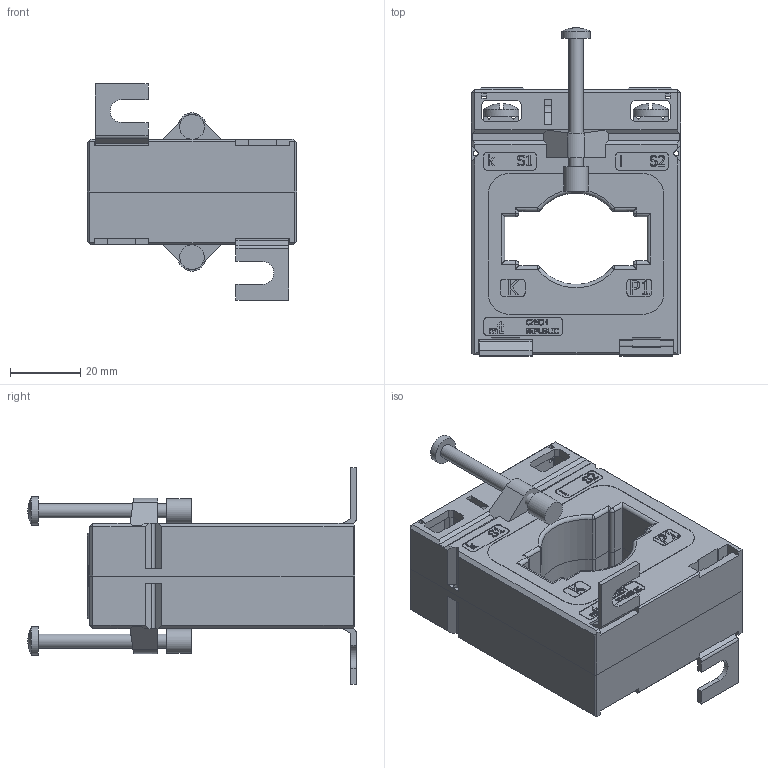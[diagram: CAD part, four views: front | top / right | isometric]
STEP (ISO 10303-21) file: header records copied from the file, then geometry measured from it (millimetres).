
FILE_DESCRIPTION(/* description */ (''),/* implementation_level */ '2;1');
FILE_NAME(/* name */ 'CLB 4.63.step',/* time_stamp */ '2024-10-11T21:02:53+02:00',/* author */ ('peter'),/* organization */ (''),/* preprocessor_version */ 'ST-DEVELOPER v20',/* originating_system */ 'Autodesk Inventor 2025',/* authorisation */ '');
FILE_SCHEMA (('AUTOMOTIVE_DESIGN { 1 0 10303 214 3 1 1 }'));
Length unit declared in the file: millimetre
Products named in the file (10): Current transformer CLA 2.1; Front plastic case CLB 4.63; Back plastic case CLB 4.63; Tape label CLB 4.63; Secondary terminal 20 CLB; Secondary terminal cover 27 CLB; Metal mounting foot CLB; Screw M5x8; Screw 4x60; Insulating cap
Assembly tree (17 placements, depth 2):
  Current transformer CLA 2.1
    Front plastic case CLB 4.63
    Back plastic case CLB 4.63
    Tape label CLB 4.63
    Secondary terminal 20 CLB  x2
    Secondary terminal cover 27 CLB  x2
    Metal mounting foot CLB  x2
    Screw M5x8  x4
    Screw 4x60  x2
    Insulating cap  x2
Bounding box: 59.5 x 93.34 x 61.5 mm (x, y, z)
Volume: 106841.5 mm3; surface area: 40286.8 mm2
Topology: 17 solids, 17 shells, 1703 faces, 4640 edges, 3050 vertices
Faces by surface type: plane 1083, bspline 384, cylinder 192, sphere 26, cone 14, torus 4
Full cylindrical faces by diameter (mm): 1.5 x4, 2.5 x2, 2.95 x2, 3 x4, 3.5 x2, 4 x4, 4.134 x4, 5 x4, 7 x2, 8 x2, 10 x4
Entity records: 50338 total; most frequent: CARTESIAN_POINT 13489, ORIENTED_EDGE 8322, DIRECTION 6043, EDGE_CURVE 4161, LINE 3037, VECTOR 3037, VERTEX_POINT 2739, EDGE_LOOP 1640
